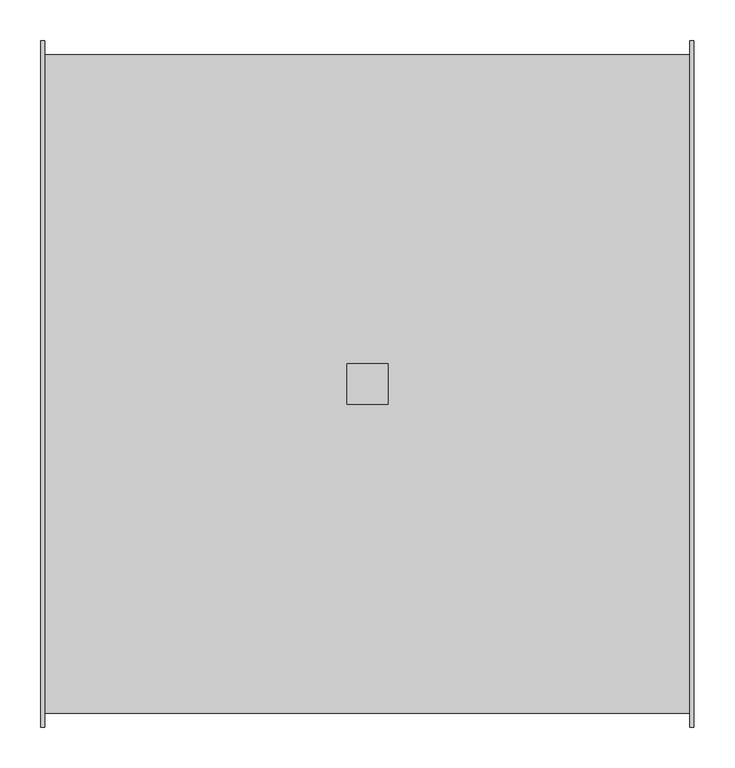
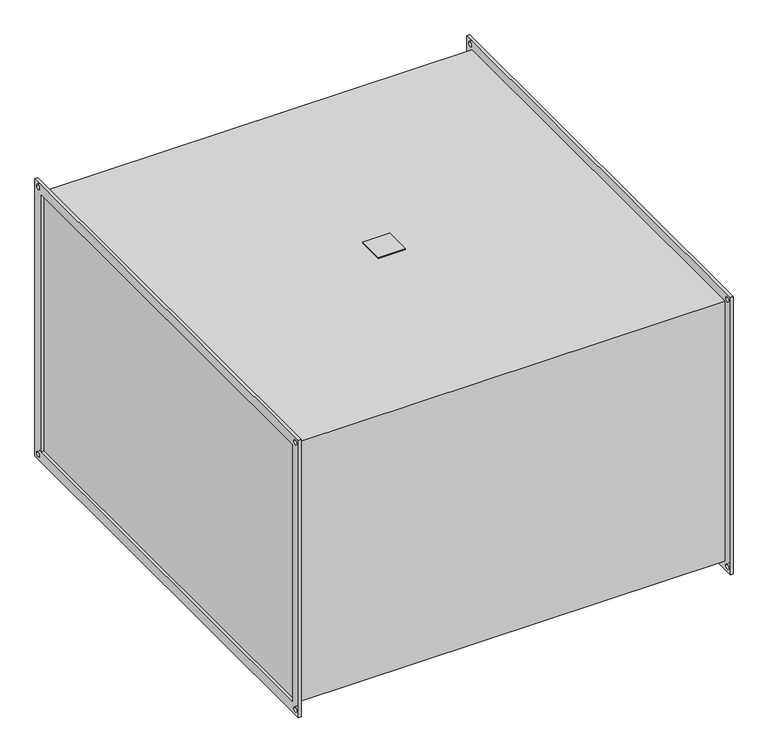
"""IFC4 building model written with IfcOpenShell, lengths in millimetres: damper geometry, KORF_Фильтр_Карманный_FKR : FKR 80-50  EU5."""

import ifcopenshell
import ifcopenshell.guid

model = None  # the IFC model being written
_history = None  # IfcOwnerHistory: only IFC2X3 demands one
_inside = {}  # id of a spatial element -> (the spatial element, [elements in it])
_under = {}  # id of a project, library or spatial element -> (it, [spatial elements below it])
_declared = {}  # id of a project -> (the project, [libraries it declares])
_typed = {}  # id of a type object -> (the type object, [elements of that type])
_made_of = {}  # id of a material, layer set ... -> (it, [elements and type objects made of it])


def new_model(schema):
    """Start an empty IFC model of exactly this schema.

    Asked for "IFC4X3", IfcOpenShell would pick the latest addendum, in which some entities
    have other attributes; the version numbers below select the first issue.
    IFC2X3 requires an IfcOwnerHistory on every rooted entity: one is made here for all.
    """
    global model, _history
    if schema == "IFC4X3":
        model = ifcopenshell.file(schema_version=(4, 3, 0, 0))
    else:
        model = ifcopenshell.file(schema=schema)
    _inside.clear()
    _under.clear()
    _declared.clear()
    _typed.clear()
    _made_of.clear()
    _history = None
    if model.schema == "IFC2X3":
        org = make("IfcOrganization", Name="unknown")
        user = make(
            "IfcPersonAndOrganization",
            ThePerson=make("IfcPerson", FamilyName="unknown"),
            TheOrganization=org,
        )
        app = make(
            "IfcApplication",
            ApplicationDeveloper=org,
            Version="unknown",
            ApplicationFullName="unknown",
            ApplicationIdentifier="unknown",
        )
        _history = make(
            "IfcOwnerHistory",
            OwningUser=user,
            OwningApplication=app,
            ChangeAction="ADDED",
            CreationDate=0,
        )
    return model


def make(cls, **values):
    """One entity of the class cls with the attributes given. An attribute that is None is left unset."""
    return model.create_entity(
        cls, **{name: value for name, value in values.items() if value is not None}
    )


def rooted(cls, **values):
    """An entity with a GlobalId (a new one), such as an element, a storey or a relation."""
    return make(cls, GlobalId=ifcopenshell.guid.new(), OwnerHistory=_history, **values)


def si_unit(unit_type, name, prefix=None):
    """IfcSIUnit, for example si_unit("LENGTHUNIT", "METRE", prefix="MILLI")."""
    return make("IfcSIUnit", UnitType=unit_type, Prefix=prefix, Name=name)


def assignment(units):
    """IfcUnitAssignment: the units of a project."""
    return None if units is None else make("IfcUnitAssignment", Units=units)


def point(xyz):
    """IfcCartesianPoint."""
    return None if xyz is None else make("IfcCartesianPoint", Coordinates=xyz)


def direction(xyz):
    """IfcDirection."""
    return None if xyz is None else make("IfcDirection", DirectionRatios=xyz)


def frame(location, z_axis=None, x_axis=None):
    """IfcAxis2Placement3D, a coordinate frame: its origin and axes. An axis left out is left unset."""
    return make(
        "IfcAxis2Placement3D",
        Location=point(location),
        Axis=direction(z_axis),
        RefDirection=direction(x_axis),
    )


def frame_2d(location, x_axis=None):
    """IfcAxis2Placement2D, a coordinate frame in the plane: its origin and x axis."""
    return make(
        "IfcAxis2Placement2D", Location=point(location), RefDirection=direction(x_axis)
    )


def origin():
    """The frame at (0, 0, 0) with its axes left unset."""
    return frame((0.0, 0.0, 0.0))


def place(relative_to, where):
    """IfcLocalPlacement: puts the frame where relative to a parent placement (None: the world)."""
    return make(
        "IfcLocalPlacement", PlacementRelTo=relative_to, RelativePlacement=where
    )


def context(
    kind, dimensions, precision=None, world=None, true_north=None, identifier=None
):
    """IfcGeometricRepresentationContext, for example the 3D "Model" context."""
    return make(
        "IfcGeometricRepresentationContext",
        ContextIdentifier=identifier,
        ContextType=kind,
        CoordinateSpaceDimension=dimensions,
        Precision=precision,
        WorldCoordinateSystem=world,
        TrueNorth=true_north,
    )


def project(units=None, contexts=None):
    """IfcProject with its units and contexts."""
    return rooted(
        "IfcProject",
        Name="project",
        RepresentationContexts=contexts,
        UnitsInContext=assignment(units),
    )


def spatial(cls, under=None, at=None, **own):
    """A site, building, storey or space (cls), placed at a placement, below another one or the project."""
    s = rooted(cls, ObjectPlacement=at, **own)
    if under is not None:
        _under.setdefault(under.id(), (under, []))[1].append(s)
    return s


def polyline(points):
    """IfcPolyline through the points."""
    return make("IfcPolyline", Points=[point(p) for p in points])


def circle_curve(where, radius):
    """IfcCircle in the frame where."""
    return make("IfcCircle", Position=where, Radius=radius)


def trimmed(basis, trim1, trim2, sense, master):
    """IfcTrimmedCurve: the piece of a basis curve between two trims."""
    return make(
        "IfcTrimmedCurve",
        BasisCurve=basis,
        Trim1=trim1,
        Trim2=trim2,
        SenseAgreement=sense,
        MasterRepresentation=master,
    )


def segment(curve, same_sense, transition):
    """IfcCompositeCurveSegment."""
    return make(
        "IfcCompositeCurveSegment",
        Transition=transition,
        SameSense=same_sense,
        ParentCurve=curve,
    )


def composite_curve(segments, self_intersect=None):
    """IfcCompositeCurve: segments joined end to end."""
    return make("IfcCompositeCurve", Segments=segments, SelfIntersect=self_intersect)


def outline(outer, holes=None, kind="AREA"):
    """IfcArbitraryClosedProfileDef: a profile drawn as a closed curve; with holes, ...WithVoids."""
    if holes is None:
        return make("IfcArbitraryClosedProfileDef", ProfileType=kind, OuterCurve=outer)
    return make(
        "IfcArbitraryProfileDefWithVoids",
        ProfileType=kind,
        OuterCurve=outer,
        InnerCurves=holes,
    )


def extrude(swept, where, along, depth):
    """IfcExtrudedAreaSolid: the profile swept, set in the frame where, extruded along a direction by depth."""
    return make(
        "IfcExtrudedAreaSolid",
        SweptArea=swept,
        Position=where,
        ExtrudedDirection=direction(along),
        Depth=depth,
    )


def shape(context_of_items, identifier, shape_type, items):
    """IfcShapeRepresentation: the items that make up one representation, for example the "Body"."""
    return make(
        "IfcShapeRepresentation",
        ContextOfItems=context_of_items,
        RepresentationIdentifier=identifier,
        RepresentationType=shape_type,
        Items=items,
    )


def source(mapping_origin, context_of_items, identifier, shape_type, items):
    """IfcRepresentationMap: a shape defined once, which mapped items show again and again."""
    return make(
        "IfcRepresentationMap",
        MappingOrigin=mapping_origin,
        MappedRepresentation=shape(context_of_items, identifier, shape_type, items),
    )


def transform(
    local_origin,
    x_axis=None,
    y_axis=None,
    z_axis=None,
    scale=None,
    scale2=None,
    scale3=None,
    uniform=True,
):
    """IfcCartesianTransformationOperator3D, or its non-uniform kind. x_axis, y_axis, z_axis: its Axis1, 2, 3."""
    if uniform:
        return make(
            "IfcCartesianTransformationOperator3D",
            Axis1=direction(x_axis),
            Axis2=direction(y_axis),
            LocalOrigin=point(local_origin),
            Scale=scale,
            Axis3=direction(z_axis),
        )
    return make(
        "IfcCartesianTransformationOperator3DnonUniform",
        Axis1=direction(x_axis),
        Axis2=direction(y_axis),
        LocalOrigin=point(local_origin),
        Scale=scale,
        Axis3=direction(z_axis),
        Scale2=scale2,
        Scale3=scale3,
    )


def mapped(mapping_source, mapping_target):
    """IfcMappedItem: shows the shape of a source again, moved by a transform."""
    return make(
        "IfcMappedItem", MappingSource=mapping_source, MappingTarget=mapping_target
    )


def made_of(thing, what):
    """Note that an element or type object is made of a material, layer set ...; save() writes the relation."""
    if what is not None:
        _made_of.setdefault(what.id(), (what, []))[1].append(thing)
    return thing


def element(
    cls,
    number,
    at=None,
    inside=None,
    cuts=None,
    type_object=None,
    material=None,
    context=None,
    identifier="Body",
    shape_type=None,
    held_by="IfcProductDefinitionShape",
    body=None,
    shapes=None,
    **own,
):
    """One element of the class cls, such as IfcWall. Its Tag is "e" and its number.

    at: its placement. inside: the storey or other place that contains it. cuts: it is an
    opening in that element (IfcRelVoidsElement). A single representation is given by context,
    identifier, shape_type and body (its items); several are given by shapes. held_by: the class
    of the entity that holds the representations. save() writes the other relations.
    """
    e = rooted(cls, Tag="e%d" % number, ObjectPlacement=at, **own)
    if body is not None:
        shapes = [shape(context, identifier, shape_type, body)]
    if shapes is not None:
        e.Representation = make(held_by, Representations=shapes)
    if inside is not None:
        _inside.setdefault(inside.id(), (inside, []))[1].append(e)
    if cuts is not None:
        rooted(
            "IfcRelVoidsElement", RelatingBuildingElement=cuts, RelatedOpeningElement=e
        )
    if type_object is not None:
        _typed.setdefault(type_object.id(), (type_object, []))[1].append(e)
    return made_of(e, material)


def aggregate(whole, parts):
    """IfcRelAggregates: a whole, such as a stair, and the parts it consists of."""
    return rooted("IfcRelAggregates", RelatingObject=whole, RelatedObjects=parts)


def save(model, path):
    """Write the relations noted so far, then the file.

    IfcRelAggregates (storeys below a building ...), IfcRelContainedInSpatialStructure (elements
    in a storey), IfcRelDefinesByType, IfcRelAssociatesMaterial and IfcRelDeclares: one each for
    every whole, place, type object, material and project.
    """
    for whole, parts in _under.values():
        aggregate(whole, parts)
    for where, things in _inside.values():
        rooted(
            "IfcRelContainedInSpatialStructure",
            RelatedElements=things,
            RelatingStructure=where,
        )
    for kind, things in _typed.values():
        rooted("IfcRelDefinesByType", RelatedObjects=things, RelatingType=kind)
    for what, things in _made_of.values():
        rooted("IfcRelAssociatesMaterial", RelatedObjects=things, RelatingMaterial=what)
    for by, libraries in _declared.values():
        rooted("IfcRelDeclares", RelatingContext=by, RelatedDefinitions=libraries)
    model.write(path)


def damper_902c86e1(model_context):
    return source(origin(), model_context, "Body", "SweptSolid", [
        extrude(outline(polyline([(425.0, 25.0), (425.0, -25.0), (375.0, -25.0), (375.0, 25.0), (425.0, 25.0)])), frame((0.0, 0.0, 253.0), z_axis=(0.0, 0.0, 1.0), x_axis=(1.0, 0.0, 0.0)), (0.0, 0.0, 1.0), 2.0),
        extrude(outline(polyline([(-420.0, 270.0), (420.0, 270.0), (420.0, -270.0), (-420.0, -270.0), (-420.0, 270.0)]), holes=[polyline([(-400.0, 250.0), (-400.0, -250.0), (400.0, -250.0), (400.0, 250.0), (-400.0, 250.0)]), composite_curve([segment(trimmed(circle_curve(frame_2d((410.0, 260.0)), 4.5), [point((405.5, 260.0))], [point((414.5, 260.0))], True, "CARTESIAN"), True, "CONTINUOUS"), segment(trimmed(circle_curve(frame_2d((410.0, 260.0)), 4.5), [point((414.5, 260.0))], [point((405.5, 260.0))], True, "CARTESIAN"), True, "CONTINUOUS")], self_intersect=False), composite_curve([segment(trimmed(circle_curve(frame_2d((-410.0, 260.0)), 4.5), [point((-414.5, 260.0))], [point((-405.5, 260.0))], True, "CARTESIAN"), True, "CONTINUOUS"), segment(trimmed(circle_curve(frame_2d((-410.0, 260.0)), 4.5), [point((-405.5, 260.0))], [point((-414.5, 260.0))], True, "CARTESIAN"), True, "CONTINUOUS")], self_intersect=False), composite_curve([segment(trimmed(circle_curve(frame_2d((-410.0, -260.0)), 4.5), [point((-414.5, -260.0))], [point((-405.5, -260.0))], True, "CARTESIAN"), True, "CONTINUOUS"), segment(trimmed(circle_curve(frame_2d((-410.0, -260.0)), 4.5), [point((-405.5, -260.0))], [point((-414.5, -260.0))], True, "CARTESIAN"), True, "CONTINUOUS")], self_intersect=False), composite_curve([segment(trimmed(circle_curve(frame_2d((410.0, -260.0)), 4.5), [point((405.5, -260.0))], [point((414.5, -260.0))], True, "CARTESIAN"), True, "CONTINUOUS"), segment(trimmed(circle_curve(frame_2d((410.0, -260.0)), 4.5), [point((414.5, -260.0))], [point((405.5, -260.0))], True, "CARTESIAN"), True, "CONTINUOUS")], self_intersect=False)]), frame((795.0, 0.0, 0.0), z_axis=(1.0, 0.0, 0.0), x_axis=(0.0, 1.0, 0.0)), (0.0, 0.0, 1.0), 5.0),
        extrude(outline(polyline([(-420.0, 270.0), (420.0, 270.0), (420.0, -270.0), (-420.0, -270.0), (-420.0, 270.0)]), holes=[polyline([(-400.0, 250.0), (-400.0, -250.0), (400.0, -250.0), (400.0, 250.0), (-400.0, 250.0)]), composite_curve([segment(trimmed(circle_curve(frame_2d((410.0, 260.0)), 4.5), [point((405.5, 260.0))], [point((414.5, 260.0))], True, "CARTESIAN"), True, "CONTINUOUS"), segment(trimmed(circle_curve(frame_2d((410.0, 260.0)), 4.5), [point((414.5, 260.0))], [point((405.5, 260.0))], True, "CARTESIAN"), True, "CONTINUOUS")], self_intersect=False), composite_curve([segment(trimmed(circle_curve(frame_2d((-410.0, 260.0)), 4.5), [point((-414.5, 260.0))], [point((-405.5, 260.0))], True, "CARTESIAN"), True, "CONTINUOUS"), segment(trimmed(circle_curve(frame_2d((-410.0, 260.0)), 4.5), [point((-405.5, 260.0))], [point((-414.5, 260.0))], True, "CARTESIAN"), True, "CONTINUOUS")], self_intersect=False), composite_curve([segment(trimmed(circle_curve(frame_2d((-410.0, -260.0)), 4.5), [point((-414.5, -260.0))], [point((-405.5, -260.0))], True, "CARTESIAN"), True, "CONTINUOUS"), segment(trimmed(circle_curve(frame_2d((-410.0, -260.0)), 4.5), [point((-405.5, -260.0))], [point((-414.5, -260.0))], True, "CARTESIAN"), True, "CONTINUOUS")], self_intersect=False), composite_curve([segment(trimmed(circle_curve(frame_2d((410.0, -260.0)), 4.5), [point((405.5, -260.0))], [point((414.5, -260.0))], True, "CARTESIAN"), True, "CONTINUOUS"), segment(trimmed(circle_curve(frame_2d((410.0, -260.0)), 4.5), [point((414.5, -260.0))], [point((405.5, -260.0))], True, "CARTESIAN"), True, "CONTINUOUS")], self_intersect=False)]), frame((0.0, 0.0, 0.0), z_axis=(1.0, 0.0, 0.0), x_axis=(0.0, 1.0, 0.0)), (0.0, 0.0, 1.0), 5.0),
        extrude(outline(polyline([(795.0, 403.0), (795.0, -403.0), (5.0, -403.0), (5.0, 403.0), (795.0, 403.0)])), frame((0.0, 0.0, -253.0), z_axis=(0.0, 0.0, 1.0), x_axis=(1.0, 0.0, 0.0)), (0.0, 0.0, 1.0), 506.0),
    ])


if __name__ == "__main__":
    model = new_model("IFC4")
    model_context = context("Model", 3, world=origin())
    ifc_project = project(units=[si_unit("LENGTHUNIT", "METRE", prefix="MILLI")], contexts=[model_context])
    site = spatial("IfcSite", under=ifc_project)
    building = spatial("IfcBuilding", under=site)
    placement = place(None, origin())
    damper_shape = damper_902c86e1(model_context)
    element("IfcDamper", 1, ObjectType="KORF_Фильтр_Карманный_FKR : FKR 80-50  EU5", at=placement, inside=building, context=model_context, shape_type="MappedRepresentation", body=[
        mapped(damper_shape, transform((0.0, 0.0, 0.0), x_axis=(1.0, 0.0, 0.0), y_axis=(0.0, 1.0, 0.0), z_axis=(0.0, 0.0, 1.0))),
    ])
    save(model, "model.ifc")
